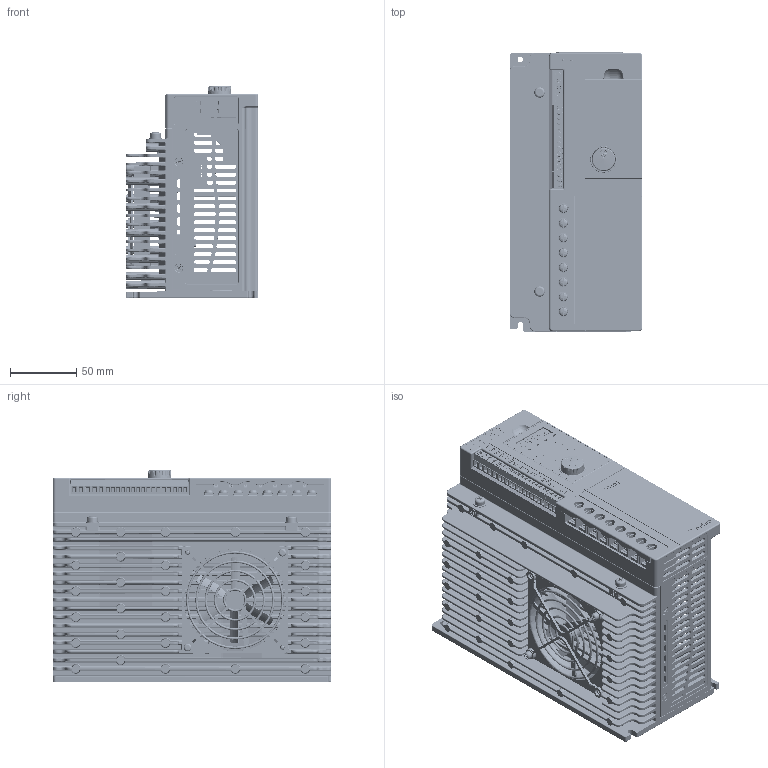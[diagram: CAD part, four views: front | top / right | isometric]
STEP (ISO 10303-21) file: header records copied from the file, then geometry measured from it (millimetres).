
FILE_DESCRIPTION (( 'STEP AP203' ), '1' );
FILE_NAME ('YD0000-F2(提供给客户） 18.03.19..STEP', '2018-03-19T01:43:39', ( 'User' ), ( 'china' ), 'SwSTEP 2.0', 'SolidWorks 2017', '' );
FILE_SCHEMA (( 'CONFIG_CONTROL_DESIGN' ));
Length unit declared in the file: millimetre
Products named in the file (32): 408 MODEL ; YD101-L -F2 继电器12.08.10 ; ec381v-03p; VR 10.12.07; M4｡ﾁ8 ; 散热座-F2 400V  12.08.29; ech381v-13p; KB-A011-2P-WP(帽子）12.04.12; YD0000-F2(提供给客户）  18.03.19.; 楹裔; ech381v-03p; YD101-L KEYPADLABEL 12.6.27; upper cover-F2  12.11.15; ec381v-13p; keypad 12.6.28; keypad cover12.06.28; cross recessed ctsk wood screws gb_GB_WOOD_SCREWS_TYPE135 3X8-N; ｷ酲ﾈ 80｡ﾁ80｡ﾁ15 ; 諉華蹟緲M4℅10; LED; 錨璃2; 279990056-8cm餫圮欶; led-2pin; keypad downcover 12.06.28; 硌尨腑梓ワ 408; ech508v-05p(2); DT-69-H53W-5409-08; RJ45 180僅 8p; 劑豢梓ワ; ec508v-05p(2); 尥翹諳-112.05.22; TACTLE SWITCH SNTTYPE   ELTM-41
Assembly tree (43 placements, depth 3):
  YD0000-F2(提供给客户）  18.03.19.
    keypad 12.6.28
      keypad cover12.06.28
      LED
      keypad downcover 12.06.28
      RJ45 180僅 8p
      TACTLE SWITCH SNTTYPE   ELTM-41  x6
      VR 10.12.07
      KB-A011-2P-WP(帽子）12.04.12
      YD101-L KEYPADLABEL 12.6.27
    諉華蹟緲M4℅10  x2
    led-2pin
    DT-69-H53W-5409-08
    尥翹諳-112.05.22
    ec381v-03p
    ech381v-13p
    ech381v-03p
    ec381v-13p
    ｷ酲ﾈ 80｡ﾁ80｡ﾁ15 
    279990056-8cm餫圮欶
    ech508v-05p(2)
    ec508v-05p(2)
    YD101-L -F2 继电器12.08.10 
    散热座-F2 400V  12.08.29
    楹裔
    upper cover-F2  12.11.15
    cross recessed ctsk wood screws gb_GB_WOOD_SCREWS_TYPE135 3X8-N  x4
    錨璃2  x3
    硌尨腑梓ワ 408
    劑豢梓ワ
    408 MODEL 
    M4｡ﾁ8   x2
Bounding box: 100.05 x 210.05 x 159.75 mm (x, y, z)
Volume: 712213.6 mm3; surface area: 483901.9 mm2
Topology: 112 solids, 117 shells, 19435 faces, 50851 edges, 32366 vertices
Faces by surface type: plane 9444, bspline 4284, cylinder 4155, torus 629, cone 615, sphere 308
Entity records: 749412 total; most frequent: CARTESIAN_POINT 319463, ORIENTED_EDGE 98308, DIRECTION 73477, EDGE_CURVE 49154, VERTEX_POINT 31438, LINE 29251, VECTOR 29251, AXIS2_PLACEMENT_3D 22113
